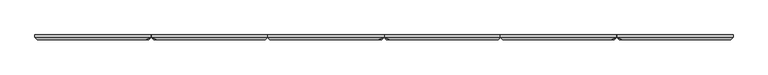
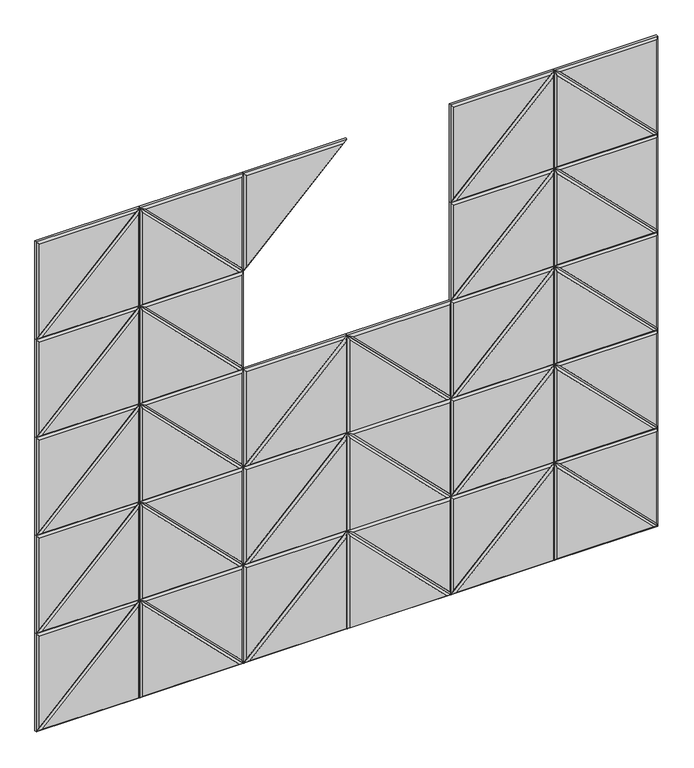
"""IFC4 building model written with IfcOpenShell, lengths in millimetres: proxy geometry, Wall_Akebia 7.3dm."""

from ifc_helpers import new_model, si_unit, origin, place, context, project, spatial, faceted_brep, source, transform, mapped, element, save


def generic_models_0d8c589f(model_context):
    return source(origin(), model_context, "Body", "Brep", [
        faceted_brep([(9548.8489855, 12.0, 1606.2), (9847.2989855, 12.0, 1606.2), (9548.8489855, 12.0, 1307.75), (9548.8489855, 6.0, 1606.2), (9847.2989855, 6.0, 1606.2), (9548.8489855, 6.0, 1307.75), (9554.8489855, 0.0, 1322.2352814), (9832.8137042, 0.0, 1600.2), (9554.8489855, 0.0, 1600.2)], [[[0, 1, 2]], [[3, 4, 1, 0]], [[4, 5, 2, 1]], [[5, 3, 0, 2]], [[6, 7, 8]], [[3, 8, 7, 4]], [[4, 7, 6, 5]], [[5, 6, 8, 3]]]),
        faceted_brep([(9250.3989855, 12.0, 1009.3), (9250.3989855, 12.0, 1307.75), (9548.8489855, 12.0, 1009.3), (9250.3989855, 6.0, 1009.3), (9250.3989855, 6.0, 1307.75), (9548.8489855, 6.0, 1009.3), (9534.3637042, 0.0, 1015.3), (9256.3989855, 0.0, 1293.2647186), (9256.3989855, 0.0, 1015.3)], [[[0, 1, 2]], [[3, 4, 1, 0]], [[4, 5, 2, 1]], [[5, 3, 0, 2]], [[6, 7, 8]], [[3, 8, 7, 4]], [[4, 7, 6, 5]], [[5, 6, 8, 3]]]),
        faceted_brep([(9548.8489855, 12.0, 1307.75), (9548.8489855, 12.0, 1009.3), (9250.3989855, 12.0, 1307.75), (9548.8489855, 6.0, 1307.75), (9250.3989855, 6.0, 1307.75), (9548.8489855, 6.0, 1009.3), (9542.8489855, 0.0, 1023.7852814), (9542.8489855, 0.0, 1301.75), (9264.8842669, 0.0, 1301.75)], [[[0, 1, 2]], [[3, 0, 2, 4]], [[4, 2, 1, 5]], [[5, 1, 0, 3]], [[6, 7, 8]], [[3, 4, 8, 7]], [[4, 5, 6, 8]], [[5, 3, 7, 6]]]),
        faceted_brep([(9250.3989855, 12.0, 1009.3), (8951.9489855, 12.0, 1009.3), (9250.3989855, 12.0, 1307.75), (9250.3989855, 6.0, 1009.3), (9250.3989855, 6.0, 1307.75), (8951.9489855, 6.0, 1009.3), (8966.4342669, 0.0, 1015.3), (9244.3989855, 0.0, 1015.3), (9244.3989855, 0.0, 1293.2647186)], [[[0, 1, 2]], [[3, 0, 2, 4]], [[4, 2, 1, 5]], [[5, 1, 0, 3]], [[6, 7, 8]], [[3, 4, 8, 7]], [[4, 5, 6, 8]], [[5, 3, 7, 6]]]),
        faceted_brep([(8951.9489855, 12.0, 1307.75), (9250.3989855, 12.0, 1307.75), (8951.9489855, 12.0, 1009.3), (8951.9489855, 6.0, 1307.75), (9250.3989855, 6.0, 1307.75), (8951.9489855, 6.0, 1009.3), (8957.9489855, 0.0, 1023.7852814), (9235.9137042, 0.0, 1301.75), (8957.9489855, 0.0, 1301.75)], [[[0, 1, 2]], [[3, 4, 1, 0]], [[4, 5, 2, 1]], [[5, 3, 0, 2]], [[6, 7, 8]], [[3, 8, 7, 4]], [[4, 7, 6, 5]], [[5, 6, 8, 3]]]),
        faceted_brep([(9250.3989855, 12.0, 1307.75), (9250.3989855, 12.0, 1606.2), (9548.8489855, 12.0, 1307.75), (9250.3989855, 6.0, 1307.75), (9250.3989855, 6.0, 1606.2), (9548.8489855, 6.0, 1307.75), (9534.3637042, 0.0, 1313.75), (9256.3989855, 0.0, 1591.7147186), (9256.3989855, 0.0, 1313.75)], [[[0, 1, 2]], [[3, 4, 1, 0]], [[4, 5, 2, 1]], [[5, 3, 0, 2]], [[6, 7, 8]], [[3, 8, 7, 4]], [[4, 7, 6, 5]], [[5, 6, 8, 3]]]),
        faceted_brep([(9548.8489855, 12.0, 1606.2), (9548.8489855, 12.0, 1307.75), (9250.3989855, 12.0, 1606.2), (9548.8489855, 6.0, 1606.2), (9250.3989855, 6.0, 1606.2), (9548.8489855, 6.0, 1307.75), (9542.8489855, 0.0, 1322.2352814), (9542.8489855, 0.0, 1600.2), (9264.8842669, 0.0, 1600.2)], [[[0, 1, 2]], [[3, 0, 2, 4]], [[4, 2, 1, 5]], [[5, 1, 0, 3]], [[6, 7, 8]], [[3, 4, 8, 7]], [[4, 5, 6, 8]], [[5, 3, 7, 6]]]),
        faceted_brep([(9250.3989855, 12.0, 1307.75), (8951.9489855, 12.0, 1307.75), (9250.3989855, 12.0, 1606.2), (9250.3989855, 6.0, 1307.75), (9250.3989855, 6.0, 1606.2), (8951.9489855, 6.0, 1307.75), (8966.4342669, 0.0, 1313.75), (9244.3989855, 0.0, 1313.75), (9244.3989855, 0.0, 1591.7147186)], [[[0, 1, 2]], [[3, 0, 2, 4]], [[4, 2, 1, 5]], [[5, 1, 0, 3]], [[6, 7, 8]], [[3, 4, 8, 7]], [[4, 5, 6, 8]], [[5, 3, 7, 6]]]),
        faceted_brep([(8951.9489855, 12.0, 1606.2), (9250.3989855, 12.0, 1606.2), (8951.9489855, 12.0, 1307.75), (8951.9489855, 6.0, 1606.2), (9250.3989855, 6.0, 1606.2), (8951.9489855, 6.0, 1307.75), (8957.9489855, 0.0, 1322.2352814), (9235.9137042, 0.0, 1600.2), (8957.9489855, 0.0, 1600.2)], [[[0, 1, 2]], [[3, 4, 1, 0]], [[4, 5, 2, 1]], [[5, 3, 0, 2]], [[6, 7, 8]], [[3, 8, 7, 4]], [[4, 7, 6, 5]], [[5, 6, 8, 3]]]),
        faceted_brep([(10444.1989855, 12.0, 1009.3), (10444.1989855, 12.0, 1307.75), (10742.6489855, 12.0, 1009.3), (10444.1989855, 6.0, 1009.3), (10444.1989855, 6.0, 1307.75), (10742.6489855, 6.0, 1009.3), (10728.1637042, 0.0, 1015.3), (10450.1989855, 0.0, 1293.2647186), (10450.1989855, 0.0, 1015.3)], [[[0, 1, 2]], [[3, 4, 1, 0]], [[4, 5, 2, 1]], [[5, 3, 0, 2]], [[6, 7, 8]], [[3, 8, 7, 4]], [[4, 7, 6, 5]], [[5, 6, 8, 3]]]),
        faceted_brep([(10742.6489855, 12.0, 1307.75), (10742.6489855, 12.0, 1009.3), (10444.1989855, 12.0, 1307.75), (10742.6489855, 6.0, 1307.75), (10444.1989855, 6.0, 1307.75), (10742.6489855, 6.0, 1009.3), (10736.6489855, 0.0, 1023.7852814), (10736.6489855, 0.0, 1301.75), (10458.6842669, 0.0, 1301.75)], [[[0, 1, 2]], [[3, 0, 2, 4]], [[4, 2, 1, 5]], [[5, 1, 0, 3]], [[6, 7, 8]], [[3, 4, 8, 7]], [[4, 5, 6, 8]], [[5, 3, 7, 6]]]),
        faceted_brep([(10444.1989855, 12.0, 1009.3), (10145.7489855, 12.0, 1009.3), (10444.1989855, 12.0, 1307.75), (10444.1989855, 6.0, 1009.3), (10444.1989855, 6.0, 1307.75), (10145.7489855, 6.0, 1009.3), (10160.2342669, 0.0, 1015.3), (10438.1989855, 0.0, 1015.3), (10438.1989855, 0.0, 1293.2647186)], [[[0, 1, 2]], [[3, 0, 2, 4]], [[4, 2, 1, 5]], [[5, 1, 0, 3]], [[6, 7, 8]], [[3, 4, 8, 7]], [[4, 5, 6, 8]], [[5, 3, 7, 6]]]),
        faceted_brep([(10145.7489855, 12.0, 1307.75), (10444.1989855, 12.0, 1307.75), (10145.7489855, 12.0, 1009.3), (10145.7489855, 6.0, 1307.75), (10444.1989855, 6.0, 1307.75), (10145.7489855, 6.0, 1009.3), (10151.7489855, 0.0, 1023.7852814), (10429.7137042, 0.0, 1301.75), (10151.7489855, 0.0, 1301.75)], [[[0, 1, 2]], [[3, 4, 1, 0]], [[4, 5, 2, 1]], [[5, 3, 0, 2]], [[6, 7, 8]], [[3, 8, 7, 4]], [[4, 7, 6, 5]], [[5, 6, 8, 3]]]),
        faceted_brep([(10444.1989855, 12.0, 1307.75), (10444.1989855, 12.0, 1606.2), (10742.6489855, 12.0, 1307.75), (10444.1989855, 6.0, 1307.75), (10444.1989855, 6.0, 1606.2), (10742.6489855, 6.0, 1307.75), (10728.1637042, 0.0, 1313.75), (10450.1989855, 0.0, 1591.7147186), (10450.1989855, 0.0, 1313.75)], [[[0, 1, 2]], [[3, 4, 1, 0]], [[4, 5, 2, 1]], [[5, 3, 0, 2]], [[6, 7, 8]], [[3, 8, 7, 4]], [[4, 7, 6, 5]], [[5, 6, 8, 3]]]),
        faceted_brep([(10742.6489855, 12.0, 1606.2), (10742.6489855, 12.0, 1307.75), (10444.1989855, 12.0, 1606.2), (10742.6489855, 6.0, 1606.2), (10444.1989855, 6.0, 1606.2), (10742.6489855, 6.0, 1307.75), (10736.6489855, 0.0, 1322.2352814), (10736.6489855, 0.0, 1600.2), (10458.6842669, 0.0, 1600.2)], [[[0, 1, 2]], [[3, 0, 2, 4]], [[4, 2, 1, 5]], [[5, 1, 0, 3]], [[6, 7, 8]], [[3, 4, 8, 7]], [[4, 5, 6, 8]], [[5, 3, 7, 6]]]),
        faceted_brep([(10444.1989855, 12.0, 1307.75), (10145.7489855, 12.0, 1307.75), (10444.1989855, 12.0, 1606.2), (10444.1989855, 6.0, 1307.75), (10444.1989855, 6.0, 1606.2), (10145.7489855, 6.0, 1307.75), (10160.2342669, 0.0, 1313.75), (10438.1989855, 0.0, 1313.75), (10438.1989855, 0.0, 1591.7147186)], [[[0, 1, 2]], [[3, 0, 2, 4]], [[4, 2, 1, 5]], [[5, 1, 0, 3]], [[6, 7, 8]], [[3, 4, 8, 7]], [[4, 5, 6, 8]], [[5, 3, 7, 6]]]),
        faceted_brep([(10145.7489855, 12.0, 1606.2), (10444.1989855, 12.0, 1606.2), (10145.7489855, 12.0, 1307.75), (10145.7489855, 6.0, 1606.2), (10444.1989855, 6.0, 1606.2), (10145.7489855, 6.0, 1307.75), (10151.7489855, 0.0, 1322.2352814), (10429.7137042, 0.0, 1600.2), (10151.7489855, 0.0, 1600.2)], [[[0, 1, 2]], [[3, 4, 1, 0]], [[4, 5, 2, 1]], [[5, 3, 0, 2]], [[6, 7, 8]], [[3, 8, 7, 4]], [[4, 7, 6, 5]], [[5, 6, 8, 3]]]),
        faceted_brep([(9847.2989855, 12.0, 412.4), (9847.2989855, 12.0, 710.85), (10145.7489855, 12.0, 412.4), (9847.2989855, 6.0, 412.4), (9847.2989855, 6.0, 710.85), (10145.7489855, 6.0, 412.4), (10131.2637042, 0.0, 418.4), (9853.2989855, 0.0, 696.3647186), (9853.2989855, 0.0, 418.4)], [[[0, 1, 2]], [[3, 4, 1, 0]], [[4, 5, 2, 1]], [[5, 3, 0, 2]], [[6, 7, 8]], [[3, 8, 7, 4]], [[4, 7, 6, 5]], [[5, 6, 8, 3]]]),
        faceted_brep([(10145.7489855, 12.0, 710.85), (10145.7489855, 12.0, 412.4), (9847.2989855, 12.0, 710.85), (10145.7489855, 6.0, 710.85), (9847.2989855, 6.0, 710.85), (10145.7489855, 6.0, 412.4), (10139.7489855, 0.0, 426.8852814), (10139.7489855, 0.0, 704.85), (9861.7842669, 0.0, 704.85)], [[[0, 1, 2]], [[3, 0, 2, 4]], [[4, 2, 1, 5]], [[5, 1, 0, 3]], [[6, 7, 8]], [[3, 4, 8, 7]], [[4, 5, 6, 8]], [[5, 3, 7, 6]]]),
        faceted_brep([(9847.2989855, 12.0, 412.4), (9548.8489855, 12.0, 412.4), (9847.2989855, 12.0, 710.85), (9847.2989855, 6.0, 412.4), (9847.2989855, 6.0, 710.85), (9548.8489855, 6.0, 412.4), (9563.3342669, 0.0, 418.4), (9841.2989855, 0.0, 418.4), (9841.2989855, 0.0, 696.3647186)], [[[0, 1, 2]], [[3, 0, 2, 4]], [[4, 2, 1, 5]], [[5, 1, 0, 3]], [[6, 7, 8]], [[3, 4, 8, 7]], [[4, 5, 6, 8]], [[5, 3, 7, 6]]]),
        faceted_brep([(9548.8489855, 12.0, 710.85), (9847.2989855, 12.0, 710.85), (9548.8489855, 12.0, 412.4), (9548.8489855, 6.0, 710.85), (9847.2989855, 6.0, 710.85), (9548.8489855, 6.0, 412.4), (9554.8489855, 0.0, 426.8852814), (9832.8137042, 0.0, 704.85), (9554.8489855, 0.0, 704.85)], [[[0, 1, 2]], [[3, 4, 1, 0]], [[4, 5, 2, 1]], [[5, 3, 0, 2]], [[6, 7, 8]], [[3, 8, 7, 4]], [[4, 7, 6, 5]], [[5, 6, 8, 3]]]),
        faceted_brep([(9847.2989855, 12.0, 710.85), (9847.2989855, 12.0, 1009.3), (10145.7489855, 12.0, 710.85), (9847.2989855, 6.0, 710.85), (9847.2989855, 6.0, 1009.3), (10145.7489855, 6.0, 710.85), (10131.2637042, 0.0, 716.85), (9853.2989855, 0.0, 994.8147186), (9853.2989855, 0.0, 716.85)], [[[0, 1, 2]], [[3, 4, 1, 0]], [[4, 5, 2, 1]], [[5, 3, 0, 2]], [[6, 7, 8]], [[3, 8, 7, 4]], [[4, 7, 6, 5]], [[5, 6, 8, 3]]]),
        faceted_brep([(10145.7489855, 12.0, 1009.3), (10145.7489855, 12.0, 710.85), (9847.2989855, 12.0, 1009.3), (10145.7489855, 6.0, 1009.3), (9847.2989855, 6.0, 1009.3), (10145.7489855, 6.0, 710.85), (10139.7489855, 0.0, 725.3352814), (10139.7489855, 0.0, 1003.3), (9861.7842669, 0.0, 1003.3)], [[[0, 1, 2]], [[3, 0, 2, 4]], [[4, 2, 1, 5]], [[5, 1, 0, 3]], [[6, 7, 8]], [[3, 4, 8, 7]], [[4, 5, 6, 8]], [[5, 3, 7, 6]]]),
        faceted_brep([(9847.2989855, 12.0, 710.85), (9548.8489855, 12.0, 710.85), (9847.2989855, 12.0, 1009.3), (9847.2989855, 6.0, 710.85), (9847.2989855, 6.0, 1009.3), (9548.8489855, 6.0, 710.85), (9563.3342669, 0.0, 716.85), (9841.2989855, 0.0, 716.85), (9841.2989855, 0.0, 994.8147186)], [[[0, 1, 2]], [[3, 0, 2, 4]], [[4, 2, 1, 5]], [[5, 1, 0, 3]], [[6, 7, 8]], [[3, 4, 8, 7]], [[4, 5, 6, 8]], [[5, 3, 7, 6]]]),
        faceted_brep([(9548.8489855, 12.0, 1009.3), (9847.2989855, 12.0, 1009.3), (9548.8489855, 12.0, 710.85), (9548.8489855, 6.0, 1009.3), (9847.2989855, 6.0, 1009.3), (9548.8489855, 6.0, 710.85), (9554.8489855, 0.0, 725.3352814), (9832.8137042, 0.0, 1003.3), (9554.8489855, 0.0, 1003.3)], [[[0, 1, 2]], [[3, 4, 1, 0]], [[4, 5, 2, 1]], [[5, 3, 0, 2]], [[6, 7, 8]], [[3, 8, 7, 4]], [[4, 7, 6, 5]], [[5, 6, 8, 3]]]),
        faceted_brep([(9250.3989855, 12.0, 412.4), (9250.3989855, 12.0, 710.85), (9548.8489855, 12.0, 412.4), (9250.3989855, 6.0, 412.4), (9250.3989855, 6.0, 710.85), (9548.8489855, 6.0, 412.4), (9534.3637042, 0.0, 418.4), (9256.3989855, 0.0, 696.3647186), (9256.3989855, 0.0, 418.4)], [[[0, 1, 2]], [[3, 4, 1, 0]], [[4, 5, 2, 1]], [[5, 3, 0, 2]], [[6, 7, 8]], [[3, 8, 7, 4]], [[4, 7, 6, 5]], [[5, 6, 8, 3]]]),
        faceted_brep([(9548.8489855, 12.0, 710.85), (9548.8489855, 12.0, 412.4), (9250.3989855, 12.0, 710.85), (9548.8489855, 6.0, 710.85), (9250.3989855, 6.0, 710.85), (9548.8489855, 6.0, 412.4), (9542.8489855, 0.0, 426.8852814), (9542.8489855, 0.0, 704.85), (9264.8842669, 0.0, 704.85)], [[[0, 1, 2]], [[3, 0, 2, 4]], [[4, 2, 1, 5]], [[5, 1, 0, 3]], [[6, 7, 8]], [[3, 4, 8, 7]], [[4, 5, 6, 8]], [[5, 3, 7, 6]]]),
        faceted_brep([(9250.3989855, 12.0, 412.4), (8951.9489855, 12.0, 412.4), (9250.3989855, 12.0, 710.85), (9250.3989855, 6.0, 412.4), (9250.3989855, 6.0, 710.85), (8951.9489855, 6.0, 412.4), (8966.4342669, 0.0, 418.4), (9244.3989855, 0.0, 418.4), (9244.3989855, 0.0, 696.3647186)], [[[0, 1, 2]], [[3, 0, 2, 4]], [[4, 2, 1, 5]], [[5, 1, 0, 3]], [[6, 7, 8]], [[3, 4, 8, 7]], [[4, 5, 6, 8]], [[5, 3, 7, 6]]]),
        faceted_brep([(8951.9489855, 12.0, 710.85), (9250.3989855, 12.0, 710.85), (8951.9489855, 12.0, 412.4), (8951.9489855, 6.0, 710.85), (9250.3989855, 6.0, 710.85), (8951.9489855, 6.0, 412.4), (8957.9489855, 0.0, 426.8852814), (9235.9137042, 0.0, 704.85), (8957.9489855, 0.0, 704.85)], [[[0, 1, 2]], [[3, 4, 1, 0]], [[4, 5, 2, 1]], [[5, 3, 0, 2]], [[6, 7, 8]], [[3, 8, 7, 4]], [[4, 7, 6, 5]], [[5, 6, 8, 3]]]),
        faceted_brep([(9250.3989855, 12.0, 710.85), (9250.3989855, 12.0, 1009.3), (9548.8489855, 12.0, 710.85), (9250.3989855, 6.0, 710.85), (9250.3989855, 6.0, 1009.3), (9548.8489855, 6.0, 710.85), (9534.3637042, 0.0, 716.85), (9256.3989855, 0.0, 994.8147186), (9256.3989855, 0.0, 716.85)], [[[0, 1, 2]], [[3, 4, 1, 0]], [[4, 5, 2, 1]], [[5, 3, 0, 2]], [[6, 7, 8]], [[3, 8, 7, 4]], [[4, 7, 6, 5]], [[5, 6, 8, 3]]]),
        faceted_brep([(9548.8489855, 12.0, 1009.3), (9548.8489855, 12.0, 710.85), (9250.3989855, 12.0, 1009.3), (9548.8489855, 6.0, 1009.3), (9250.3989855, 6.0, 1009.3), (9548.8489855, 6.0, 710.85), (9542.8489855, 0.0, 725.3352814), (9542.8489855, 0.0, 1003.3), (9264.8842669, 0.0, 1003.3)], [[[0, 1, 2]], [[3, 0, 2, 4]], [[4, 2, 1, 5]], [[5, 1, 0, 3]], [[6, 7, 8]], [[3, 4, 8, 7]], [[4, 5, 6, 8]], [[5, 3, 7, 6]]]),
        faceted_brep([(9250.3989855, 12.0, 710.85), (8951.9489855, 12.0, 710.85), (9250.3989855, 12.0, 1009.3), (9250.3989855, 6.0, 710.85), (9250.3989855, 6.0, 1009.3), (8951.9489855, 6.0, 710.85), (8966.4342669, 0.0, 716.85), (9244.3989855, 0.0, 716.85), (9244.3989855, 0.0, 994.8147186)], [[[0, 1, 2]], [[3, 0, 2, 4]], [[4, 2, 1, 5]], [[5, 1, 0, 3]], [[6, 7, 8]], [[3, 4, 8, 7]], [[4, 5, 6, 8]], [[5, 3, 7, 6]]]),
        faceted_brep([(8951.9489855, 12.0, 1009.3), (9250.3989855, 12.0, 1009.3), (8951.9489855, 12.0, 710.85), (8951.9489855, 6.0, 1009.3), (9250.3989855, 6.0, 1009.3), (8951.9489855, 6.0, 710.85), (8957.9489855, 0.0, 725.3352814), (9235.9137042, 0.0, 1003.3), (8957.9489855, 0.0, 1003.3)], [[[0, 1, 2]], [[3, 4, 1, 0]], [[4, 5, 2, 1]], [[5, 3, 0, 2]], [[6, 7, 8]], [[3, 8, 7, 4]], [[4, 7, 6, 5]], [[5, 6, 8, 3]]]),
        faceted_brep([(10444.1989855, 12.0, 412.4), (10444.1989855, 12.0, 710.85), (10742.6489855, 12.0, 412.4), (10444.1989855, 6.0, 412.4), (10444.1989855, 6.0, 710.85), (10742.6489855, 6.0, 412.4), (10728.1637042, 0.0, 418.4), (10450.1989855, 0.0, 696.3647186), (10450.1989855, 0.0, 418.4)], [[[0, 1, 2]], [[3, 4, 1, 0]], [[4, 5, 2, 1]], [[5, 3, 0, 2]], [[6, 7, 8]], [[3, 8, 7, 4]], [[4, 7, 6, 5]], [[5, 6, 8, 3]]]),
        faceted_brep([(10742.6489855, 12.0, 710.85), (10742.6489855, 12.0, 412.4), (10444.1989855, 12.0, 710.85), (10742.6489855, 6.0, 710.85), (10444.1989855, 6.0, 710.85), (10742.6489855, 6.0, 412.4), (10736.6489855, 0.0, 426.8852814), (10736.6489855, 0.0, 704.85), (10458.6842669, 0.0, 704.85)], [[[0, 1, 2]], [[3, 0, 2, 4]], [[4, 2, 1, 5]], [[5, 1, 0, 3]], [[6, 7, 8]], [[3, 4, 8, 7]], [[4, 5, 6, 8]], [[5, 3, 7, 6]]]),
        faceted_brep([(10444.1989855, 12.0, 412.4), (10145.7489855, 12.0, 412.4), (10444.1989855, 12.0, 710.85), (10444.1989855, 6.0, 412.4), (10444.1989855, 6.0, 710.85), (10145.7489855, 6.0, 412.4), (10160.2342669, 0.0, 418.4), (10438.1989855, 0.0, 418.4), (10438.1989855, 0.0, 696.3647186)], [[[0, 1, 2]], [[3, 0, 2, 4]], [[4, 2, 1, 5]], [[5, 1, 0, 3]], [[6, 7, 8]], [[3, 4, 8, 7]], [[4, 5, 6, 8]], [[5, 3, 7, 6]]]),
        faceted_brep([(10145.7489855, 12.0, 710.85), (10444.1989855, 12.0, 710.85), (10145.7489855, 12.0, 412.4), (10145.7489855, 6.0, 710.85), (10444.1989855, 6.0, 710.85), (10145.7489855, 6.0, 412.4), (10151.7489855, 0.0, 426.8852814), (10429.7137042, 0.0, 704.85), (10151.7489855, 0.0, 704.85)], [[[0, 1, 2]], [[3, 4, 1, 0]], [[4, 5, 2, 1]], [[5, 3, 0, 2]], [[6, 7, 8]], [[3, 8, 7, 4]], [[4, 7, 6, 5]], [[5, 6, 8, 3]]]),
        faceted_brep([(10444.1989855, 12.0, 710.85), (10444.1989855, 12.0, 1009.3), (10742.6489855, 12.0, 710.85), (10444.1989855, 6.0, 710.85), (10444.1989855, 6.0, 1009.3), (10742.6489855, 6.0, 710.85), (10728.1637042, 0.0, 716.85), (10450.1989855, 0.0, 994.8147186), (10450.1989855, 0.0, 716.85)], [[[0, 1, 2]], [[3, 4, 1, 0]], [[4, 5, 2, 1]], [[5, 3, 0, 2]], [[6, 7, 8]], [[3, 8, 7, 4]], [[4, 7, 6, 5]], [[5, 6, 8, 3]]]),
        faceted_brep([(10742.6489855, 12.0, 1009.3), (10742.6489855, 12.0, 710.85), (10444.1989855, 12.0, 1009.3), (10742.6489855, 6.0, 1009.3), (10444.1989855, 6.0, 1009.3), (10742.6489855, 6.0, 710.85), (10736.6489855, 0.0, 725.3352814), (10736.6489855, 0.0, 1003.3), (10458.6842669, 0.0, 1003.3)], [[[0, 1, 2]], [[3, 0, 2, 4]], [[4, 2, 1, 5]], [[5, 1, 0, 3]], [[6, 7, 8]], [[3, 4, 8, 7]], [[4, 5, 6, 8]], [[5, 3, 7, 6]]]),
        faceted_brep([(10444.1989855, 12.0, 710.85), (10145.7489855, 12.0, 710.85), (10444.1989855, 12.0, 1009.3), (10444.1989855, 6.0, 710.85), (10444.1989855, 6.0, 1009.3), (10145.7489855, 6.0, 710.85), (10160.2342669, 0.0, 716.85), (10438.1989855, 0.0, 716.85), (10438.1989855, 0.0, 994.8147186)], [[[0, 1, 2]], [[3, 0, 2, 4]], [[4, 2, 1, 5]], [[5, 1, 0, 3]], [[6, 7, 8]], [[3, 4, 8, 7]], [[4, 5, 6, 8]], [[5, 3, 7, 6]]]),
        faceted_brep([(10145.7489855, 12.0, 1009.3), (10444.1989855, 12.0, 1009.3), (10145.7489855, 12.0, 710.85), (10145.7489855, 6.0, 1009.3), (10444.1989855, 6.0, 1009.3), (10145.7489855, 6.0, 710.85), (10151.7489855, 0.0, 725.3352814), (10429.7137042, 0.0, 1003.3), (10151.7489855, 0.0, 1003.3)], [[[0, 1, 2]], [[3, 4, 1, 0]], [[4, 5, 2, 1]], [[5, 3, 0, 2]], [[6, 7, 8]], [[3, 8, 7, 4]], [[4, 7, 6, 5]], [[5, 6, 8, 3]]]),
        faceted_brep([(9847.2989855, 12.0, 113.95), (9847.2989855, 12.0, 412.4), (10145.7489855, 12.0, 113.95), (9847.2989855, 6.0, 113.95), (9847.2989855, 6.0, 412.4), (10145.7489855, 6.0, 113.95), (10131.2637042, 0.0, 119.95), (9853.2989855, 0.0, 397.9147186), (9853.2989855, 0.0, 119.95)], [[[0, 1, 2]], [[3, 4, 1, 0]], [[4, 5, 2, 1]], [[5, 3, 0, 2]], [[6, 7, 8]], [[3, 8, 7, 4]], [[4, 7, 6, 5]], [[5, 6, 8, 3]]]),
        faceted_brep([(10145.7489855, 12.0, 412.4), (10145.7489855, 12.0, 113.95), (9847.2989855, 12.0, 412.4), (10145.7489855, 6.0, 412.4), (9847.2989855, 6.0, 412.4), (10145.7489855, 6.0, 113.95), (10139.7489855, 0.0, 128.4352814), (10139.7489855, 0.0, 406.4), (9861.7842669, 0.0, 406.4)], [[[0, 1, 2]], [[3, 0, 2, 4]], [[4, 2, 1, 5]], [[5, 1, 0, 3]], [[6, 7, 8]], [[3, 4, 8, 7]], [[4, 5, 6, 8]], [[5, 3, 7, 6]]]),
        faceted_brep([(9847.2989855, 12.0, 113.95), (9548.8489855, 12.0, 113.95), (9847.2989855, 12.0, 412.4), (9847.2989855, 6.0, 113.95), (9847.2989855, 6.0, 412.4), (9548.8489855, 6.0, 113.95), (9563.3342669, 0.0, 119.95), (9841.2989855, 0.0, 119.95), (9841.2989855, 0.0, 397.9147186)], [[[0, 1, 2]], [[3, 0, 2, 4]], [[4, 2, 1, 5]], [[5, 1, 0, 3]], [[6, 7, 8]], [[3, 4, 8, 7]], [[4, 5, 6, 8]], [[5, 3, 7, 6]]]),
        faceted_brep([(9548.8489855, 12.0, 412.4), (9847.2989855, 12.0, 412.4), (9548.8489855, 12.0, 113.95), (9548.8489855, 6.0, 412.4), (9847.2989855, 6.0, 412.4), (9548.8489855, 6.0, 113.95), (9554.8489855, 0.0, 128.4352814), (9832.8137042, 0.0, 406.4), (9554.8489855, 0.0, 406.4)], [[[0, 1, 2]], [[3, 4, 1, 0]], [[4, 5, 2, 1]], [[5, 3, 0, 2]], [[6, 7, 8]], [[3, 8, 7, 4]], [[4, 7, 6, 5]], [[5, 6, 8, 3]]]),
        faceted_brep([(9250.3989855, 12.0, 113.95), (9250.3989855, 12.0, 412.4), (9548.8489855, 12.0, 113.95), (9250.3989855, 6.0, 113.95), (9250.3989855, 6.0, 412.4), (9548.8489855, 6.0, 113.95), (9534.3637042, 0.0, 119.95), (9256.3989855, 0.0, 397.9147186), (9256.3989855, 0.0, 119.95)], [[[0, 1, 2]], [[3, 4, 1, 0]], [[4, 5, 2, 1]], [[5, 3, 0, 2]], [[6, 7, 8]], [[3, 8, 7, 4]], [[4, 7, 6, 5]], [[5, 6, 8, 3]]]),
        faceted_brep([(9548.8489855, 12.0, 412.4), (9548.8489855, 12.0, 113.95), (9250.3989855, 12.0, 412.4), (9548.8489855, 6.0, 412.4), (9250.3989855, 6.0, 412.4), (9548.8489855, 6.0, 113.95), (9542.8489855, 0.0, 128.4352814), (9542.8489855, 0.0, 406.4), (9264.8842669, 0.0, 406.4)], [[[0, 1, 2]], [[3, 0, 2, 4]], [[4, 2, 1, 5]], [[5, 1, 0, 3]], [[6, 7, 8]], [[3, 4, 8, 7]], [[4, 5, 6, 8]], [[5, 3, 7, 6]]]),
        faceted_brep([(9250.3989855, 12.0, 113.95), (8951.9489855, 12.0, 113.95), (9250.3989855, 12.0, 412.4), (9250.3989855, 6.0, 113.95), (9250.3989855, 6.0, 412.4), (8951.9489855, 6.0, 113.95), (8966.4342669, 0.0, 119.95), (9244.3989855, 0.0, 119.95), (9244.3989855, 0.0, 397.9147186)], [[[0, 1, 2]], [[3, 0, 2, 4]], [[4, 2, 1, 5]], [[5, 1, 0, 3]], [[6, 7, 8]], [[3, 4, 8, 7]], [[4, 5, 6, 8]], [[5, 3, 7, 6]]]),
        faceted_brep([(8951.9489855, 12.0, 412.4), (9250.3989855, 12.0, 412.4), (8951.9489855, 12.0, 113.95), (8951.9489855, 6.0, 412.4), (9250.3989855, 6.0, 412.4), (8951.9489855, 6.0, 113.95), (8957.9489855, 0.0, 128.4352814), (9235.9137042, 0.0, 406.4), (8957.9489855, 0.0, 406.4)], [[[0, 1, 2]], [[3, 4, 1, 0]], [[4, 5, 2, 1]], [[5, 3, 0, 2]], [[6, 7, 8]], [[3, 8, 7, 4]], [[4, 7, 6, 5]], [[5, 6, 8, 3]]]),
        faceted_brep([(10444.1989855, 12.0, 113.95), (10444.1989855, 12.0, 412.4), (10742.6489855, 12.0, 113.95), (10444.1989855, 6.0, 113.95), (10444.1989855, 6.0, 412.4), (10742.6489855, 6.0, 113.95), (10728.1637042, 0.0, 119.95), (10450.1989855, 0.0, 397.9147186), (10450.1989855, 0.0, 119.95)], [[[0, 1, 2]], [[3, 4, 1, 0]], [[4, 5, 2, 1]], [[5, 3, 0, 2]], [[6, 7, 8]], [[3, 8, 7, 4]], [[4, 7, 6, 5]], [[5, 6, 8, 3]]]),
        faceted_brep([(10742.6489855, 12.0, 412.4), (10742.6489855, 12.0, 113.95), (10444.1989855, 12.0, 412.4), (10742.6489855, 6.0, 412.4), (10444.1989855, 6.0, 412.4), (10742.6489855, 6.0, 113.95), (10736.6489855, 0.0, 128.4352814), (10736.6489855, 0.0, 406.4), (10458.6842669, 0.0, 406.4)], [[[0, 1, 2]], [[3, 0, 2, 4]], [[4, 2, 1, 5]], [[5, 1, 0, 3]], [[6, 7, 8]], [[3, 4, 8, 7]], [[4, 5, 6, 8]], [[5, 3, 7, 6]]]),
        faceted_brep([(10444.1989855, 12.0, 113.95), (10145.7489855, 12.0, 113.95), (10444.1989855, 12.0, 412.4), (10444.1989855, 6.0, 113.95), (10444.1989855, 6.0, 412.4), (10145.7489855, 6.0, 113.95), (10160.2342669, 0.0, 119.95), (10438.1989855, 0.0, 119.95), (10438.1989855, 0.0, 397.9147186)], [[[0, 1, 2]], [[3, 0, 2, 4]], [[4, 2, 1, 5]], [[5, 1, 0, 3]], [[6, 7, 8]], [[3, 4, 8, 7]], [[4, 5, 6, 8]], [[5, 3, 7, 6]]]),
        faceted_brep([(10145.7489855, 12.0, 412.4), (10444.1989855, 12.0, 412.4), (10145.7489855, 12.0, 113.95), (10145.7489855, 6.0, 412.4), (10444.1989855, 6.0, 412.4), (10145.7489855, 6.0, 113.95), (10151.7489855, 0.0, 128.4352814), (10429.7137042, 0.0, 406.4), (10151.7489855, 0.0, 406.4)], [[[0, 1, 2]], [[3, 4, 1, 0]], [[4, 5, 2, 1]], [[5, 3, 0, 2]], [[6, 7, 8]], [[3, 8, 7, 4]], [[4, 7, 6, 5]], [[5, 6, 8, 3]]]),
    ])


if __name__ == "__main__":
    model = new_model("IFC4")
    model_context = context("Model", 3, world=origin())
    ifc_project = project(units=[si_unit("LENGTHUNIT", "METRE", prefix="MILLI")], contexts=[model_context])
    site = spatial("IfcSite", under=ifc_project)
    building = spatial("IfcBuilding", under=site)
    placement = place(None, origin())
    generic_models_shape = generic_models_0d8c589f(model_context)
    element("IfcBuildingElementProxy", 1, Name="Wall_Akebia 7.3dm", ObjectType="Wall_Akebia 7.3dm", at=placement, inside=building, context=model_context, shape_type="MappedRepresentation", body=[
        mapped(generic_models_shape, transform((0.0, 0.0, 0.0), x_axis=(1.0, 0.0, 0.0), y_axis=(0.0, 1.0, 0.0), z_axis=(0.0, 0.0, 1.0))),
    ])
    save(model, "model.ifc")
